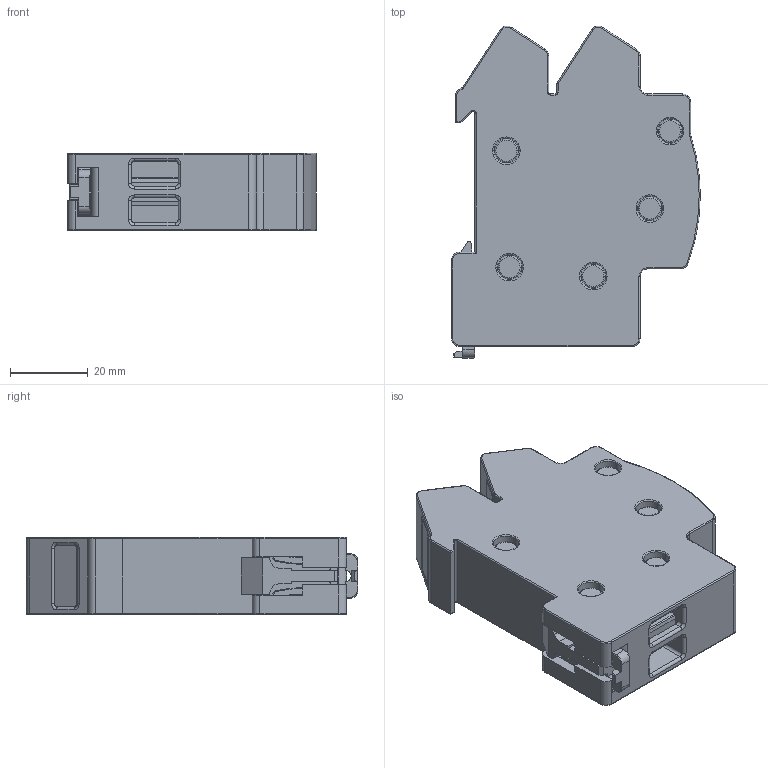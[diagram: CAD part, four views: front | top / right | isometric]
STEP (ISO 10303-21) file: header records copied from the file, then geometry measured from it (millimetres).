
FILE_DESCRIPTION (( 'STEP AP203' ), '1' );
FILE_NAME ('À1.stp', '2024-05-23T12:48:33', ( '' ), ( '' ), 'SwSTEP 2.0', 'SolidWorks 2020', '' );
FILE_SCHEMA (( 'CONFIG_CONTROL_DESIGN' ));
Length unit declared in the file: millimetre
Products named in the file (1): ﾀ1
Bounding box: 64 x 85.43 x 19.9 mm (x, y, z)
Volume: 76333.9 mm3; surface area: 22873.9 mm2
Topology: 1 solids, 4 shells, 732 faces, 1833 edges, 1119 vertices
Faces by surface type: plane 306, cylinder 236, torus 129, cone 35, bspline 18, sphere 8
Entity records: 24095 total; most frequent: CARTESIAN_POINT 6393, DIRECTION 3799, ORIENTED_EDGE 3666, EDGE_CURVE 1833, AXIS2_PLACEMENT_3D 1372, VERTEX_POINT 1119, LINE 1055, VECTOR 1055
